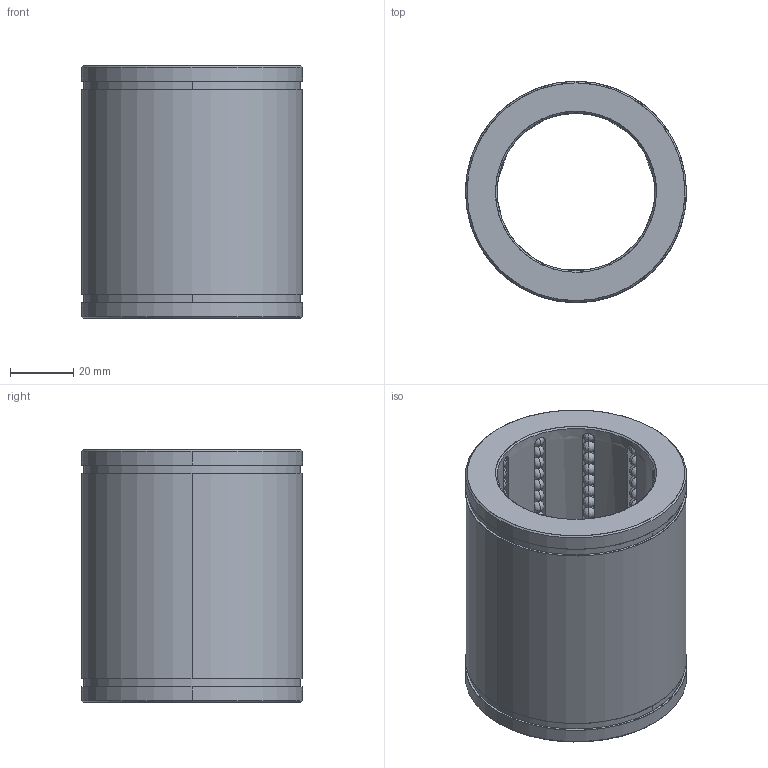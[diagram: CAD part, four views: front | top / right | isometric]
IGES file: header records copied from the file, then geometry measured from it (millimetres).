
Start section: START RECORD GO HERE.
Global section: file name: B8035080.igs; native system: DASSAULT SYSTEMES CATIA V5 R20 - www.3ds.com; preprocessor: CATIA Version 5 Release 20 ; author: Utente; organization: NB04-ASUS; date: 20200419.152623; units: millimetre
Bounding box: 70 x 70 x 80 mm (x, y, z)
Surface area: 49433.7 mm2 (no closed solid volume)
Topology: 0 solids, 0 shells, 804 faces, 3284 edges, 1844 vertices
Faces by surface type: revolution 768, plane 36
